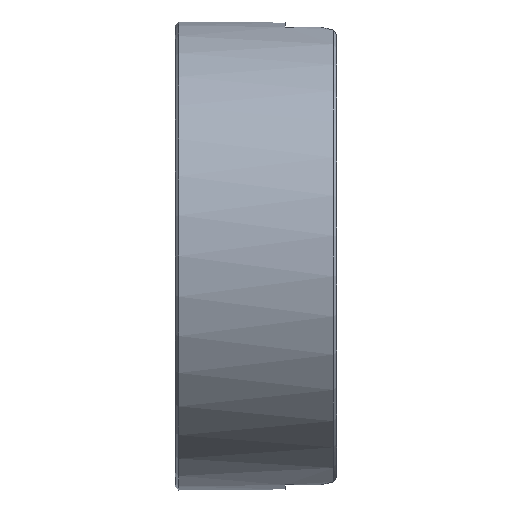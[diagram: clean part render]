
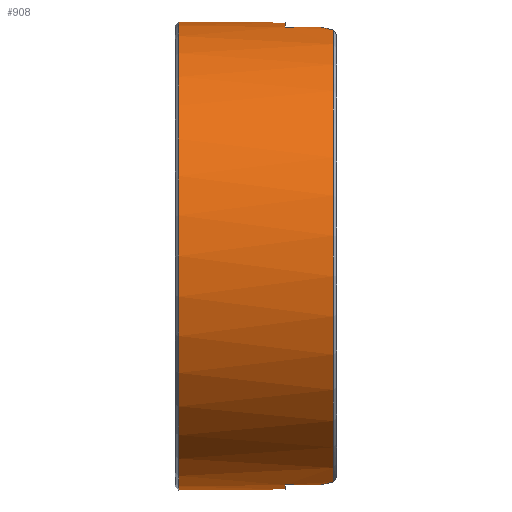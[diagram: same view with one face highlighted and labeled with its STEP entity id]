
A CAD part, front view. The second image highlights one B-rep face of the part: STEP entity #908.
In plain terms, the highlighted cylindrical face has radius 7.25 mm (diameter 14.5 mm), a full revolution.
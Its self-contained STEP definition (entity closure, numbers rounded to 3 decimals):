
#54=ELLIPSE('',#979,10.253,7.25);
#55=ELLIPSE('',#981,10.253,7.25);
#56=ELLIPSE('',#983,10.253,7.25);
#57=ELLIPSE('',#985,10.253,7.25);
#62=CYLINDRICAL_SURFACE('',#977,7.25);
#116=FACE_OUTER_BOUND('',#163,.T.);
#163=EDGE_LOOP('',(#637,#638,#639,#640,#641,#642,#643,#644,#645,#646,#647,
#648,#649,#650,#651,#652));
#212=LINE('',#1342,#293);
#213=LINE('',#1348,#294);
#214=LINE('',#1352,#295);
#215=LINE('',#1360,#296);
#216=LINE('',#1364,#297);
#293=VECTOR('',#1077,7.25);
#294=VECTOR('',#1082,10.);
#295=VECTOR('',#1085,10.);
#296=VECTOR('',#1092,10.);
#297=VECTOR('',#1095,10.);
#373=CIRCLE('',#975,7.25);
#375=CIRCLE('',#978,7.25);
#376=CIRCLE('',#980,7.25);
#377=CIRCLE('',#982,7.25);
#378=CIRCLE('',#984,7.25);
#379=CIRCLE('',#986,7.25);
#410=VERTEX_POINT('',#1335);
#412=VERTEX_POINT('',#1341);
#413=VERTEX_POINT('',#1343);
#414=VERTEX_POINT('',#1345);
#415=VERTEX_POINT('',#1347);
#416=VERTEX_POINT('',#1349);
#417=VERTEX_POINT('',#1351);
#418=VERTEX_POINT('',#1353);
#419=VERTEX_POINT('',#1355);
#420=VERTEX_POINT('',#1357);
#421=VERTEX_POINT('',#1359);
#422=VERTEX_POINT('',#1361);
#423=VERTEX_POINT('',#1363);
#424=VERTEX_POINT('',#1365);
#499=EDGE_CURVE('',#410,#410,#373,.T.);
#502=EDGE_CURVE('',#410,#412,#212,.T.);
#503=EDGE_CURVE('',#413,#412,#375,.T.);
#504=EDGE_CURVE('',#414,#413,#54,.T.);
#505=EDGE_CURVE('',#414,#415,#213,.T.);
#506=EDGE_CURVE('',#415,#416,#376,.T.);
#507=EDGE_CURVE('',#416,#417,#214,.T.);
#508=EDGE_CURVE('',#418,#417,#55,.T.);
#509=EDGE_CURVE('',#419,#418,#377,.T.);
#510=EDGE_CURVE('',#420,#419,#56,.T.);
#511=EDGE_CURVE('',#420,#421,#215,.T.);
#512=EDGE_CURVE('',#421,#422,#378,.T.);
#513=EDGE_CURVE('',#422,#423,#216,.T.);
#514=EDGE_CURVE('',#424,#423,#57,.T.);
#515=EDGE_CURVE('',#412,#424,#379,.T.);
#637=ORIENTED_EDGE('',*,*,#499,.F.);
#638=ORIENTED_EDGE('',*,*,#502,.T.);
#639=ORIENTED_EDGE('',*,*,#503,.F.);
#640=ORIENTED_EDGE('',*,*,#504,.F.);
#641=ORIENTED_EDGE('',*,*,#505,.T.);
#642=ORIENTED_EDGE('',*,*,#506,.T.);
#643=ORIENTED_EDGE('',*,*,#507,.T.);
#644=ORIENTED_EDGE('',*,*,#508,.F.);
#645=ORIENTED_EDGE('',*,*,#509,.F.);
#646=ORIENTED_EDGE('',*,*,#510,.F.);
#647=ORIENTED_EDGE('',*,*,#511,.T.);
#648=ORIENTED_EDGE('',*,*,#512,.T.);
#649=ORIENTED_EDGE('',*,*,#513,.T.);
#650=ORIENTED_EDGE('',*,*,#514,.F.);
#651=ORIENTED_EDGE('',*,*,#515,.F.);
#652=ORIENTED_EDGE('',*,*,#502,.F.);
#908=ADVANCED_FACE('',(#116),#62,.T.);
#975=AXIS2_PLACEMENT_3D('',#1336,#1070,#1071);
#977=AXIS2_PLACEMENT_3D('',#1340,#1075,#1076);
#978=AXIS2_PLACEMENT_3D('',#1344,#1078,#1079);
#979=AXIS2_PLACEMENT_3D('',#1346,#1080,#1081);
#980=AXIS2_PLACEMENT_3D('',#1350,#1083,#1084);
#981=AXIS2_PLACEMENT_3D('',#1354,#1086,#1087);
#982=AXIS2_PLACEMENT_3D('',#1356,#1088,#1089);
#983=AXIS2_PLACEMENT_3D('',#1358,#1090,#1091);
#984=AXIS2_PLACEMENT_3D('',#1362,#1093,#1094);
#985=AXIS2_PLACEMENT_3D('',#1366,#1096,#1097);
#986=AXIS2_PLACEMENT_3D('',#1367,#1098,#1099);
#1070=DIRECTION('center_axis',(-1.,0.,0.));
#1071=DIRECTION('ref_axis',(0.,-1.,0.));
#1075=DIRECTION('center_axis',(-1.,0.,0.));
#1076=DIRECTION('ref_axis',(0.,-1.,0.));
#1077=DIRECTION('',(1.,0.,0.));
#1078=DIRECTION('center_axis',(1.,0.,0.));
#1079=DIRECTION('ref_axis',(0.,1.,0.));
#1080=DIRECTION('center_axis',(0.707,-0.707,0.));
#1081=DIRECTION('ref_axis',(-0.707,-0.707,0.));
#1082=DIRECTION('',(-1.,0.,0.));
#1083=DIRECTION('center_axis',(-1.,0.,0.));
#1084=DIRECTION('ref_axis',(0.,-1.,0.));
#1085=DIRECTION('',(1.,0.,0.));
#1086=DIRECTION('center_axis',(0.707,0.707,0.));
#1087=DIRECTION('ref_axis',(0.707,-0.707,0.));
#1088=DIRECTION('center_axis',(1.,0.,0.));
#1089=DIRECTION('ref_axis',(0.,-1.,0.));
#1090=DIRECTION('center_axis',(0.707,0.707,0.));
#1091=DIRECTION('ref_axis',(0.707,-0.707,0.));
#1092=DIRECTION('',(-1.,0.,0.));
#1093=DIRECTION('center_axis',(-1.,0.,0.));
#1094=DIRECTION('ref_axis',(0.,-1.,0.));
#1095=DIRECTION('',(1.,0.,0.));
#1096=DIRECTION('center_axis',(0.707,-0.707,0.));
#1097=DIRECTION('ref_axis',(-0.707,-0.707,0.));
#1098=DIRECTION('center_axis',(1.,0.,0.));
#1099=DIRECTION('ref_axis',(0.,1.,0.));
#1335=CARTESIAN_POINT('',(-2.4,7.25,0.));
#1336=CARTESIAN_POINT('Origin',(-2.4,0.,0.));
#1340=CARTESIAN_POINT('Origin',(0.,0.,0.));
#1341=CARTESIAN_POINT('',(2.4,7.25,0.));
#1342=CARTESIAN_POINT('',(0.,7.25,0.));
#1343=CARTESIAN_POINT('',(2.4,1.9,-6.997));
#1344=CARTESIAN_POINT('Origin',(2.4,0.,0.));
#1345=CARTESIAN_POINT('',(2.,1.5,-7.093));
#1346=CARTESIAN_POINT('Origin',(0.5,0.,0.));
#1347=CARTESIAN_POINT('',(0.9,1.5,-7.093));
#1348=CARTESIAN_POINT('',(0.,1.5,-7.093));
#1349=CARTESIAN_POINT('',(0.9,-1.5,-7.093));
#1350=CARTESIAN_POINT('Origin',(0.9,0.,0.));
#1351=CARTESIAN_POINT('',(2.,-1.5,-7.093));
#1352=CARTESIAN_POINT('',(0.,-1.5,-7.093));
#1353=CARTESIAN_POINT('',(2.4,-1.9,-6.997));
#1354=CARTESIAN_POINT('Origin',(0.5,0.,0.));
#1355=CARTESIAN_POINT('',(2.4,-1.9,6.997));
#1356=CARTESIAN_POINT('Origin',(2.4,0.,0.));
#1357=CARTESIAN_POINT('',(2.,-1.5,7.093));
#1358=CARTESIAN_POINT('Origin',(0.5,0.,0.));
#1359=CARTESIAN_POINT('',(0.9,-1.5,7.093));
#1360=CARTESIAN_POINT('',(0.,-1.5,7.093));
#1361=CARTESIAN_POINT('',(0.9,1.5,7.093));
#1362=CARTESIAN_POINT('Origin',(0.9,0.,0.));
#1363=CARTESIAN_POINT('',(2.,1.5,7.093));
#1364=CARTESIAN_POINT('',(0.,1.5,7.093));
#1365=CARTESIAN_POINT('',(2.4,1.9,6.997));
#1366=CARTESIAN_POINT('Origin',(0.5,0.,0.));
#1367=CARTESIAN_POINT('Origin',(2.4,0.,0.));
